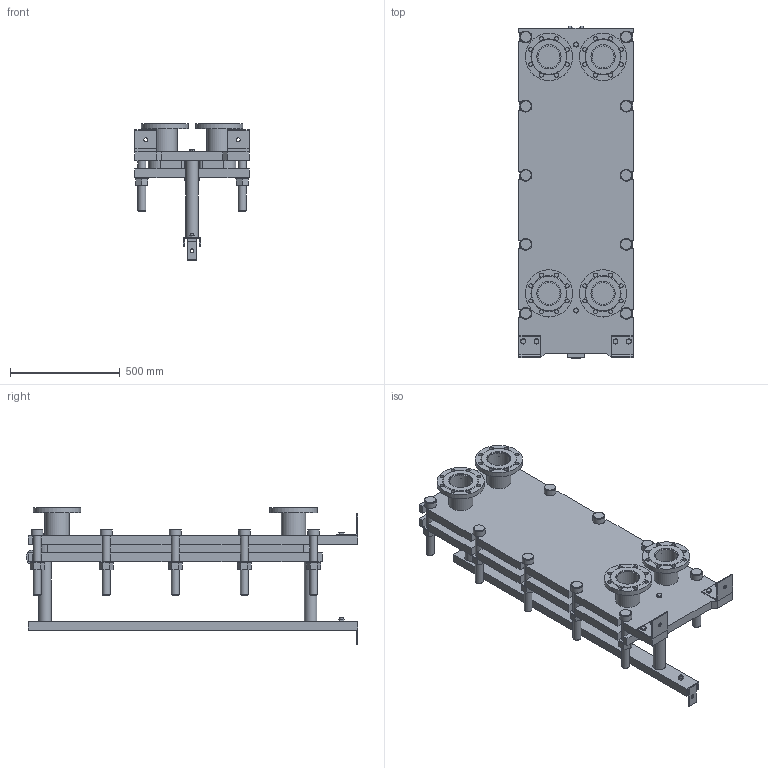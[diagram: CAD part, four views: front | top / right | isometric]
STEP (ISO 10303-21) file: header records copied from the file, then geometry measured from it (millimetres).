
FILE_DESCRIPTION(/* description */ (''),/* implementation_level */ '2;1');
FILE_NAME(/* name */ 'C:\Users\zhuro\Desktop\ENCO\TO\ЭН-04\ЭН-0,5-04-11-1.stp',/* time_stamp */ '2022-06-06T10:45:17+03:00',/* author */ ('zhuro'),/* organization */ (''),/* preprocessor_version */ 'ST-DEVELOPER v18.1',/* originating_system */ 'Autodesk Inventor 2022',/* authorisation */ '');
FILE_SCHEMA (('AUTOMOTIVE_DESIGN { 1 0 10303 214 3 1 1 }'));
Length unit declared in the file: millimetre
Products named in the file (1): ЭН-0,5-04-11-1
Bounding box: 520 x 1510 x 625.5 mm (x, y, z)
Volume: 85380579.8 mm3; surface area: 6398143.5 mm2
Topology: 45 solids, 45 shells, 668 faces, 1611 edges, 1048 vertices
Faces by surface type: plane 457, cylinder 166, cone 39, torus 6
Full cylindrical faces by diameter (mm): 8 x4, 10 x2, 16 x8, 18 x35, 36 x25, 40 x2, 42 x1, 45 x4, 54 x10, 57 x2, 60 x10, 68 x2, 100 x4, 110 x8, 215 x4
Entity records: 23607 total; most frequent: CARTESIAN_POINT 7348, DIRECTION 3371, ORIENTED_EDGE 3142, EDGE_CURVE 1571, AXIS2_PLACEMENT_3D 1199, VERTEX_POINT 1044, LINE 973, VECTOR 973
